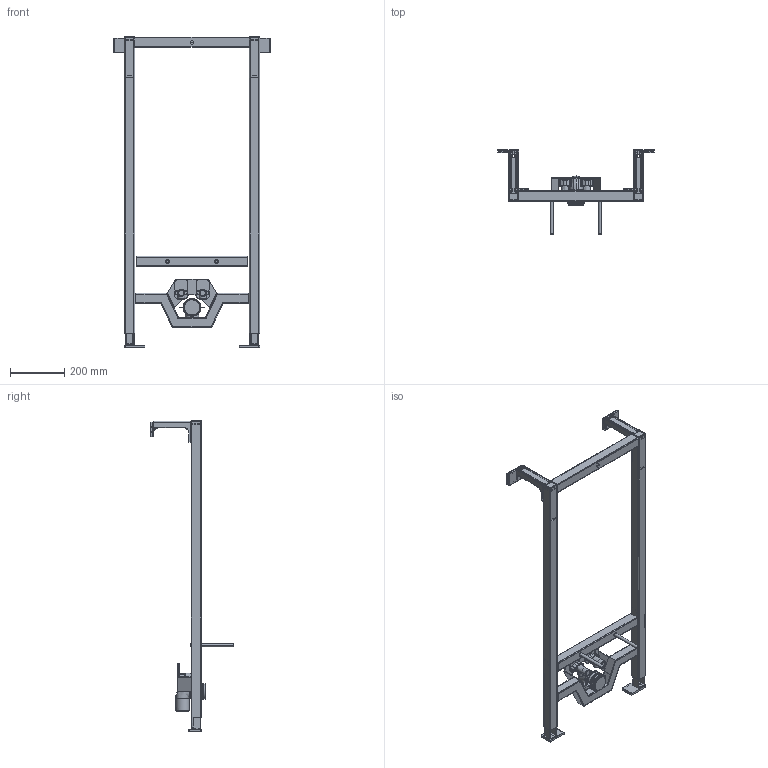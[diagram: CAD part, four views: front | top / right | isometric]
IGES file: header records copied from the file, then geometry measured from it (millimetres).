
Global section: file name: d:\users\matthias.isele\Desktop\Planungsdaten_erstellen\W&W\DuraSystem\WD4002000000\3D\WD4002000000.igs; native system: Rhinoceros ( Sep 13 2016 ); preprocessor: Trout Lake IGES 012 Sep 13 2016; date: 240118.131347; units: millimetre
Bounding box: 578.3 x 309.5 x 1149 mm (x, y, z)
Surface area: 1376906 mm2 (no closed solid volume)
Topology: 0 solids, 0 shells, 5198 faces, 29755 edges, 29676 vertices
Faces by surface type: bspline 5198
